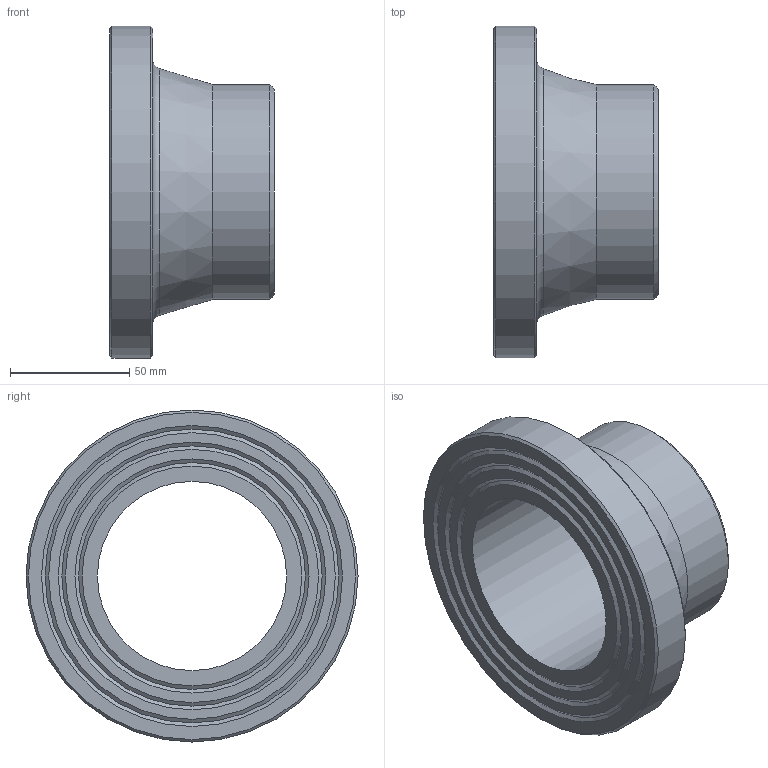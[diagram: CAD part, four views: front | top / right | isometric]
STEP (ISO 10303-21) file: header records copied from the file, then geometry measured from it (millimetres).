
FILE_DESCRIPTION(/* description */ ('Unknown'),/* implementation_level */ '2;1');
FILE_NAME(/* name */ 'CCP090B',/* time_stamp */ '2022-04-04T16:05:34+02:00',/* author */ ('Unknown'),/* organization */ ('Unknown'),/* preprocessor_version */ 'ST-DEVELOPER v18.1',/* originating_system */ 'Solid Edge',/* authorisation */ 'Unknown');
FILE_SCHEMA (('AUTOMOTIVE_DESIGN {1 0 10303 214 3 1 1}'));
Length unit declared in the file: millimetre
Products named in the file (1): CCP090B
Bounding box: 69 x 139 x 139 mm (x, y, z)
Volume: 283511 mm3; surface area: 58191.6 mm2
Topology: 1 solids, 1 shells, 20 faces, 35 edges, 21 vertices
Faces by surface type: cone 10, plane 6, cylinder 3, torus 1
Full cylindrical faces by diameter (mm): 79.2 x1, 90 x1, 139 x1
Entity records: 438 total; most frequent: DIRECTION 82, CARTESIAN_POINT 61, AXIS2_PLACEMENT_3D 41, ORIENTED_EDGE 40, EDGE_LOOP 40, FACE_BOUND 40, EDGE_CURVE 20, VERTEX_POINT 20
